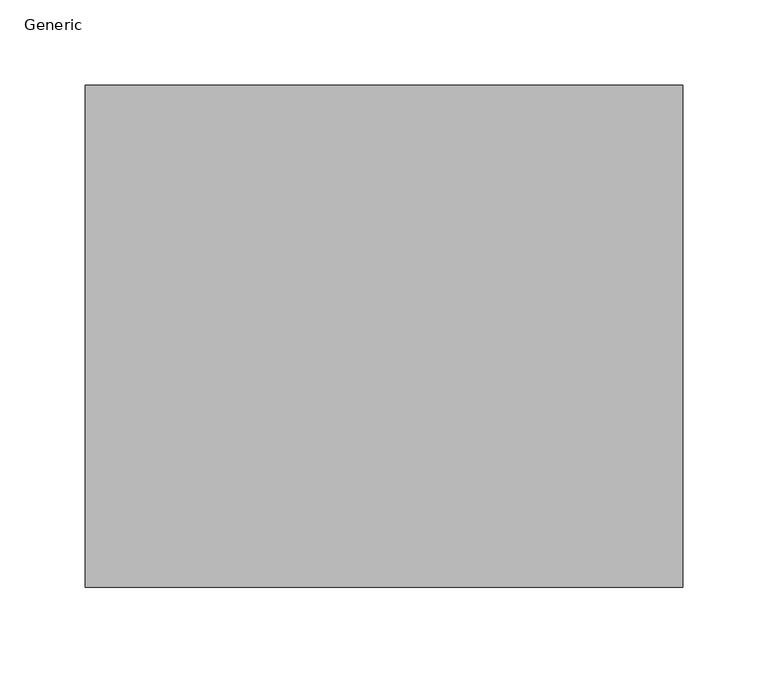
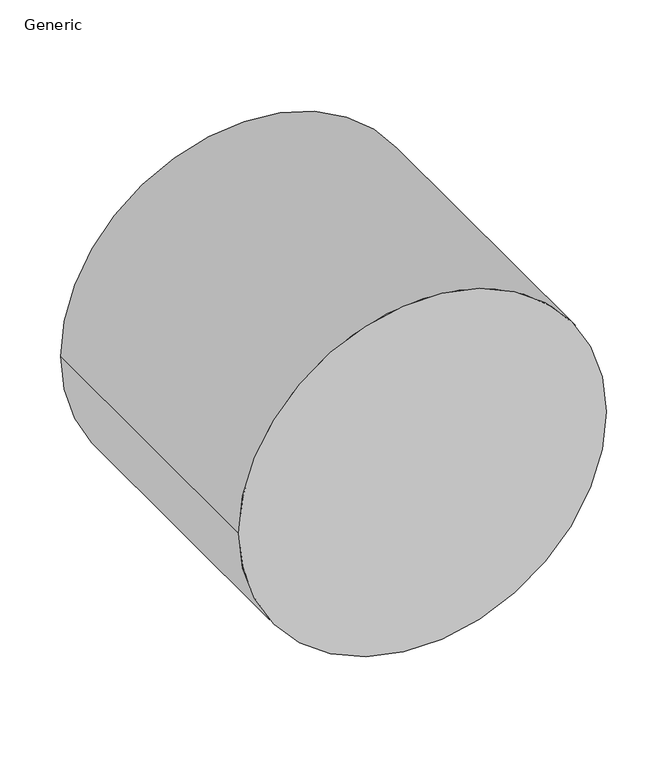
"""IFC4 building model written with IfcOpenShell, lengths in millimetres: proxy geometry, GM_Conduct : Generic."""

from ifc_helpers import new_model, si_unit, point, frame, frame_2d, origin, place, context, project, spatial, circle_curve, trimmed, segment, composite_curve, outline, extrude, source, transform, mapped, element, save


def generic_a02d87c0(model_context):
    return source(origin(), model_context, "Body", "SweptSolid", [
        extrude(outline(composite_curve([segment(trimmed(circle_curve(frame_2d((123.25, 0.0)), 175.0), [point((123.25, 175.0))], [point((123.25, -175.0))], False, "CARTESIAN"), True, "CONTINUOUS"), segment(trimmed(circle_curve(frame_2d((123.25, 0.0)), 175.0), [point((123.25, -175.0))], [point((123.25, 175.0))], False, "CARTESIAN"), True, "CONTINUOUS")], self_intersect=False)), frame((0.0, -294.0, 0.0), z_axis=(0.0, 1.0, 0.0), x_axis=(0.0, 0.0, 1.0)), (0.0, 0.0, 1.0), 294.0),
    ])


if __name__ == "__main__":
    model = new_model("IFC4")
    model_context = context("Model", 3, world=origin())
    ifc_project = project(units=[si_unit("LENGTHUNIT", "METRE", prefix="MILLI")], contexts=[model_context])
    site = spatial("IfcSite", under=ifc_project)
    building = spatial("IfcBuilding", under=site)
    placement = place(None, origin())
    generic_shape = generic_a02d87c0(model_context)
    element("IfcBuildingElementProxy", 1, Name="GM_Conduct : Generic", ObjectType="GM_Conduct : Generic", at=placement, inside=building, context=model_context, shape_type="MappedRepresentation", body=[
        mapped(generic_shape, transform((0.0, 0.0, 0.0), x_axis=(1.0, 0.0, 0.0), y_axis=(0.0, 1.0, 0.0), z_axis=(0.0, 0.0, 1.0))),
    ])
    save(model, "model.ifc")
